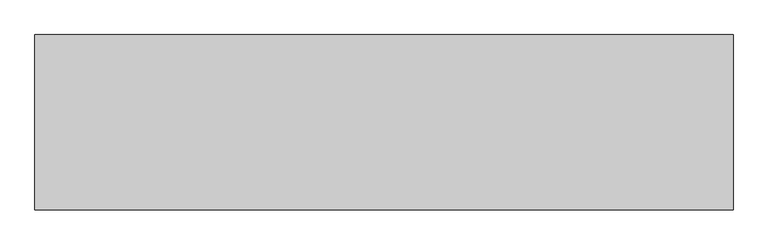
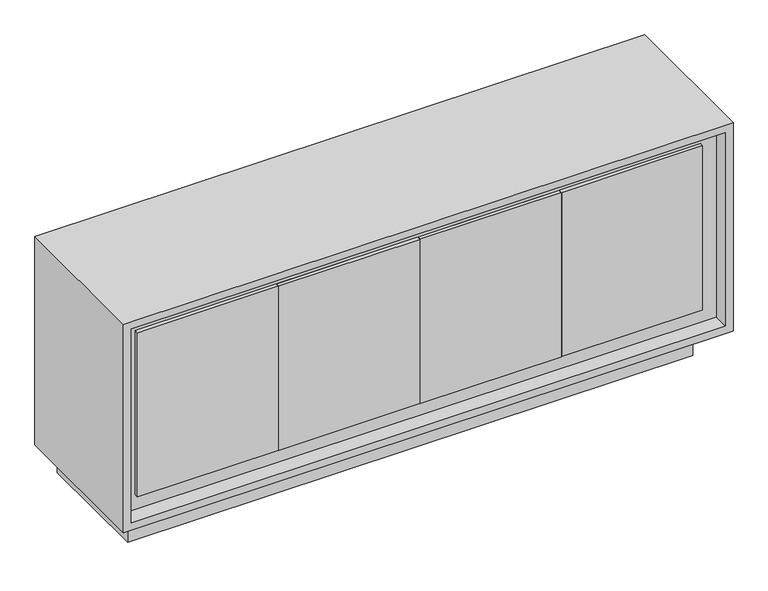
"""IFC4 building model written with IfcOpenShell, lengths in millimetres: furniture geometry, BUFETERA-1 : BUFETERA-50x80x207 cm."""

from ifc_helpers import new_model, si_unit, frame, origin, origin_with_axes, place, context, project, spatial, polyline, outline, extrude, faceted_brep, source, transform, mapped, element, save


def furniture_a5ee66b8(model_context):
    return source(origin(), model_context, "Body", "SolidModel", [
        extrude(outline(polyline([(921.8, -461.9), (461.9, -461.9), (461.9, -449.2), (921.8, -449.2), (921.8, -461.9)])), frame((0.0, 0.0, 156.2), z_axis=(0.0, 0.0, 1.0), x_axis=(1.0, 0.0, 0.0)), (0.0, 0.0, 1.0), 567.6),
        extrude(outline(polyline([(459.9, -461.9), (0.0, -461.9), (0.0, -449.2), (459.9, -449.2), (459.9, -461.9)])), frame((0.0, 0.0, 156.2), z_axis=(0.0, 0.0, 1.0), x_axis=(1.0, 0.0, 0.0)), (0.0, 0.0, 1.0), 567.6),
        extrude(outline(polyline([(-2.0, -461.9), (-461.9, -461.9), (-461.9, -449.2), (-2.0, -449.2), (-2.0, -461.9)])), frame((0.0, 0.0, 156.2), z_axis=(0.0, 0.0, 1.0), x_axis=(1.0, 0.0, 0.0)), (0.0, 0.0, 1.0), 567.6),
        extrude(outline(polyline([(-463.9, -461.9), (-923.8, -461.9), (-923.8, -449.2), (-463.9, -449.2), (-463.9, -461.9)])), frame((0.0, 0.0, 156.2), z_axis=(0.0, 0.0, 1.0), x_axis=(1.0, 0.0, 0.0)), (0.0, 0.0, 1.0), 567.6),
        faceted_brep([(1000.0, -500.0, 800.0), (-992.1497866, -500.0, 800.0), (-992.1497866, -500.0, 80.0), (1000.0, -500.0, 80.0), (974.6, -500.0, 774.6), (974.6, -500.0, 105.4), (-966.7497866, -500.0, 105.4), (-966.7497866, -500.0, 774.6), (1000.0, 0.0, 800.0), (1000.0, 0.0, 80.0), (-992.1497866, 0.0, 80.0), (-992.1497866, 0.0, 800.0), (974.6, -12.7, 774.6), (974.6, -12.7, 105.4), (-966.7497866, -12.7, 105.4), (-966.7497866, -12.7, 774.6)], [[[0, 1, 2, 3], [4, 5, 6, 7]], [[8, 9, 10, 11]], [[1, 0, 8, 11]], [[2, 1, 11, 10]], [[3, 2, 10, 9]], [[0, 3, 9, 8]], [[5, 4, 12, 13]], [[6, 5, 13, 14]], [[7, 6, 14, 15]], [[4, 7, 15, 12]], [[13, 12, 15, 14]]]),
        extrude(outline(polyline([(898.4, -51.6), (898.4, -448.4), (-948.4, -448.4), (-948.4, -51.6), (898.4, -51.6)]), holes=[polyline([(873.0, -77.0), (-923.0, -77.0), (-923.0, -423.0), (873.0, -423.0), (873.0, -77.0)])]), origin_with_axes(), (0.0, 0.0, 1.0), 80.0),
        extrude(outline(polyline([(774.6, 974.6), (774.6, -966.7497866), (105.4, -966.7497866), (105.4, 974.6), (774.6, 974.6)]), holes=[polyline([(723.8, 923.8), (156.2, 923.8), (156.2, -923.8), (723.8, -923.8), (723.8, 923.8)])]), frame((0.0, -449.2, 0.0), z_axis=(0.0, 1.0, 0.0), x_axis=(0.0, 0.0, 1.0)), (0.0, 0.0, 1.0), 12.7),
    ])


if __name__ == "__main__":
    model = new_model("IFC4")
    model_context = context("Model", 3, world=origin())
    ifc_project = project(units=[si_unit("LENGTHUNIT", "METRE", prefix="MILLI")], contexts=[model_context])
    site = spatial("IfcSite", under=ifc_project)
    building = spatial("IfcBuilding", under=site)
    placement = place(None, origin())
    furniture_shape = furniture_a5ee66b8(model_context)
    element("IfcFurniture", 1, ObjectType="BUFETERA-1 : BUFETERA-50x80x207 cm", at=placement, inside=building, context=model_context, shape_type="MappedRepresentation", body=[
        mapped(furniture_shape, transform((0.0, 0.0, 0.0), x_axis=(1.0, 0.0, 0.0), y_axis=(0.0, 1.0, 0.0), z_axis=(0.0, 0.0, 1.0))),
    ])
    save(model, "model.ifc")
